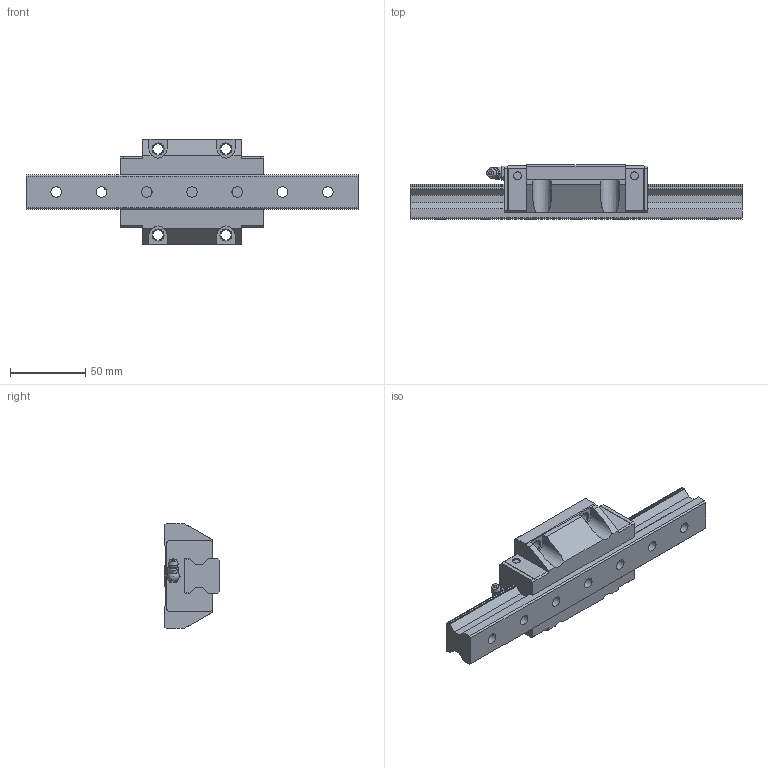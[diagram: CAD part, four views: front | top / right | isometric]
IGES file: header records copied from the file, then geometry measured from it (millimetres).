
Start section: Data from Parasolid IGES Translator 26.0.171, Copyright(c) 2006 Siemens PLM Software. All Rights Reserved.
Global section: file name: SRG25XC1SS-220LP_G20_0_B-M6F_62-45_0_0_0_1.igs; native system: By Siemens PLM Incorporated; preprocessor: XPlus GENERIC/IGES 26.0.171; author: Noname; organization: Noname; date: 20240523.093633; units: millimetre
Bounding box: 220 x 36 x 70 mm (x, y, z)
Surface area: 53318.6 mm2 (no closed solid volume)
Topology: 0 solids, 0 shells, 240 faces, 1226 edges, 1154 vertices
Faces by surface type: extrusion 167, revolution 73
